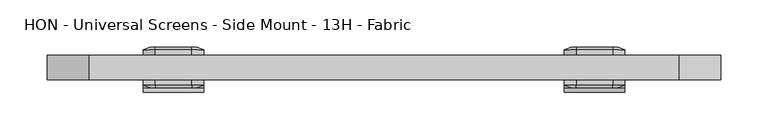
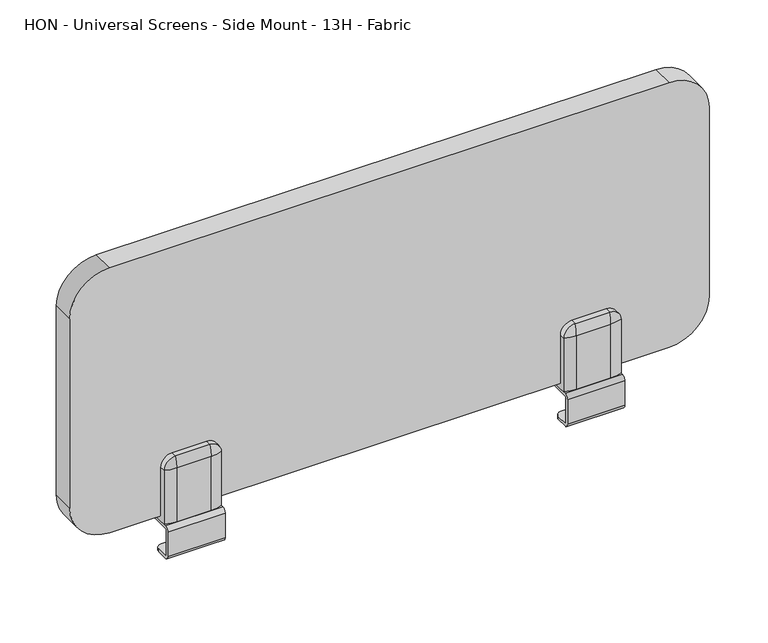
"""IFC4 building model written with IfcOpenShell, lengths in millimetres: furniture geometry."""

from ifc_helpers import new_model, si_unit, point, frame, frame_2d, origin, place, context, project, spatial, polyline, circle_curve, ellipse_curve, trimmed, segment, composite_curve, outline, extrude, source, transform, mapped, element, save
from ifc_brep_helpers import plane_surface, cylinder_surface, revolved_surface, advanced_brep


def hon_universal_screens_side_mount_13h_fabric_62fbe6fb(model_context):
    return source(origin(), model_context, "Body", "SolidModel", [
        advanced_brep(
        [(545.9595047, 10.31875, 818.870911), (558.6595047, 10.31875, 831.570911), (597.0404953, 10.31875, 831.570911), (609.7404953, 10.31875, 818.870911), (609.7404953, 10.31875, 762.0), (545.9595047, 10.31875, 762.0), (545.9595047, 4.1099198, 818.870911), (558.6595047, 4.1099198, 831.570911), (597.0404953, 4.1099198, 831.570911), (609.7404953, 4.1099198, 818.870911), (609.7404953, 35.71875, 818.870911), (597.0404953, 35.71875, 831.570911), (558.6595047, 35.71875, 831.570911), (545.9595047, 35.71875, 818.870911), (545.9595047, 35.71875, 762.0), (609.7404953, 35.71875, 762.0), (545.9595047, 41.9275802, 818.870911), (545.9595047, 41.9275802, 755.6059258), (545.9595047, 10.31875, 755.6059258), (545.9595047, 4.1099198, 755.6059258), (558.6595047, 41.9275802, 831.570911), (597.0404953, 41.9275802, 831.570911), (609.7404953, 41.9275802, 818.870911), (609.7404953, 4.1099198, 755.6059258), (609.7404953, 10.31875, 755.6059258), (609.7404953, 41.9275802, 755.6059258), (558.6595047, 44.3088302, 755.6059258), (597.0404953, 44.3088302, 755.6059258), (597.0404953, 1.7286698, 755.6059258), (558.6595047, 1.7286698, 755.6059258), (558.6595047, 44.3088302, 818.870911), (597.0404953, 44.3088302, 818.870911), (597.0404953, 1.7286698, 818.870911), (558.6595047, 1.7286698, 818.870911)],
        [
            (0, 1, circle_curve(frame((558.6595047, 10.31875, 818.870911), z_axis=(0.0, 1.0, 0.0), x_axis=(-1.0, 0.0, 0.0)), 12.7)),
            (1, 2),
            (2, 3, circle_curve(frame((597.0404953, 10.31875, 818.870911), z_axis=(0.0, 1.0, 0.0), x_axis=(-1.0, 0.0, 0.0)), 12.7)),
            (3, 4),
            (4, 5),
            (5, 0),
            (0, 6),
            (6, 7, circle_curve(frame((558.6595047, 4.1099198, 818.870911), z_axis=(0.0, 1.0, 0.0), x_axis=(-1.0, 0.0, 0.0)), 12.7)),
            (7, 1),
            (7, 8),
            (8, 2),
            (8, 9, circle_curve(frame((597.0404953, 4.1099198, 818.870911), z_axis=(0.0, 1.0, 0.0), x_axis=(-1.0, 0.0, 0.0)), 12.7)),
            (9, 3),
            (10, 11, circle_curve(frame((597.0404953, 35.71875, 818.870911), z_axis=(0.0, -1.0, 0.0), x_axis=(-1.0, 0.0, 0.0)), 12.7)),
            (11, 12),
            (12, 13, circle_curve(frame((558.6595047, 35.71875, 818.870911), z_axis=(0.0, -1.0, 0.0), x_axis=(-1.0, 0.0, 0.0)), 12.7)),
            (13, 14),
            (14, 15),
            (15, 10),
            (13, 16),
            (16, 17),
            (17, 18),
            (18, 19),
            (19, 6),
            (5, 14),
            (12, 20),
            (20, 16, circle_curve(frame((558.6595047, 41.9275802, 818.870911), z_axis=(0.0, -1.0, 0.0), x_axis=(-1.0, 0.0, 0.0)), 12.7)),
            (11, 21),
            (21, 20),
            (10, 22),
            (22, 21, circle_curve(frame((597.0404953, 41.9275802, 818.870911), z_axis=(0.0, -1.0, 0.0), x_axis=(-1.0, 0.0, 0.0)), 12.7)),
            (15, 4),
            (9, 23),
            (23, 24),
            (24, 25),
            (25, 22),
            (26, 27),
            (27, 25, circle_curve(frame((597.0404953, 9.2515386, 755.6059258), z_axis=(0.0, 0.0, -1.0), x_axis=(0.0, -1.0, 0.0)), 35.0572917)),
            (23, 28, circle_curve(frame((597.0404953, 36.7859614, 755.6059258), z_axis=(0.0, 0.0, -1.0), x_axis=(0.0, -1.0, 0.0)), 35.0572917)),
            (28, 29),
            (29, 19, circle_curve(frame((558.6595047, 36.7859614, 755.6059258), z_axis=(0.0, 0.0, -1.0), x_axis=(0.0, -1.0, 0.0)), 35.0572917)),
            (17, 26, circle_curve(frame((558.6595047, 9.2515386, 755.6059258), z_axis=(0.0, 0.0, -1.0), x_axis=(0.0, -1.0, 0.0)), 35.0572917)),
            (26, 30),
            (30, 31),
            (31, 27),
            (9, 32, circle_curve(frame((597.0404953, 36.7859614, 818.870911), z_axis=(0.0, 0.0, -1.0), x_axis=(0.0, -1.0, 0.0)), 35.0572917)),
            (32, 28),
            (8, 32, circle_curve(frame((597.0404953, 36.7859614, 818.870911), z_axis=(1.0, 0.0, 0.0), x_axis=(0.0, -1.0, 0.0)), 35.0572917)),
            (7, 33, circle_curve(frame((558.6595047, 36.7859614, 818.870911), z_axis=(1.0, 0.0, 0.0), x_axis=(0.0, -1.0, 0.0)), 35.0572917)),
            (33, 32),
            (6, 33, circle_curve(frame((558.6595047, 36.7859614, 818.870911), z_axis=(0.0, 0.0, 1.0), x_axis=(0.0, -1.0, 0.0)), 35.0572917)),
            (29, 33),
            (16, 30, circle_curve(frame((558.6595047, 9.2515386, 818.870911), z_axis=(0.0, 0.0, -1.0), x_axis=(0.0, -1.0, 0.0)), 35.0572917)),
            (20, 30, circle_curve(frame((558.6595047, 9.2515386, 818.870911), z_axis=(-1.0, 0.0, 0.0), x_axis=(0.0, -1.0, 0.0)), 35.0572917)),
            (21, 31, circle_curve(frame((597.0404953, 9.2515386, 818.870911), z_axis=(-1.0, 0.0, 0.0), x_axis=(0.0, -1.0, 0.0)), 35.0572917)),
            (22, 31, circle_curve(frame((597.0404953, 9.2515386, 818.870911), z_axis=(0.0, 0.0, 1.0), x_axis=(0.0, -1.0, 0.0)), 35.0572917)),
        ],
        [
            plane_surface(frame((609.7404953, 10.31875, 755.6059258), z_axis=(0.0, 1.0, 0.0), x_axis=(-1.0, 0.0, 0.0))),
            cylinder_surface(frame((558.6595047, 10.31875, 818.870911), z_axis=(0.0, -1.0, 0.0), x_axis=(-1.0, 0.0, 0.0)), 12.7),
            plane_surface(frame((597.0404953, 4.1099198, 831.570911), z_axis=(0.0, 0.0, 1.0), x_axis=(0.0, 1.0, 0.0))),
            cylinder_surface(frame((597.0404953, 10.31875, 818.870911), z_axis=(0.0, -1.0, 0.0), x_axis=(-1.0, 0.0, 0.0)), 12.7),
            plane_surface(frame((545.9595047, 35.71875, 755.6059258), z_axis=(0.0, -1.0, 0.0), x_axis=(0.0, 0.0, -1.0))),
            plane_surface(frame((545.9595047, 41.9275802, 755.6059258), z_axis=(-1.0, 0.0, 0.0), x_axis=(0.0, -1.0, 0.0))),
            cylinder_surface(frame((558.6595047, 35.71875, 818.870911), z_axis=(0.0, 1.0, 0.0), x_axis=(-1.0, 0.0, 0.0)), 12.7),
            plane_surface(frame((558.6595047, 41.9275802, 831.570911), z_axis=(0.0, 0.0, 1.0), x_axis=(0.0, -1.0, 0.0))),
            cylinder_surface(frame((597.0404953, 35.71875, 818.870911), z_axis=(0.0, 1.0, 0.0), x_axis=(-1.0, 0.0, 0.0)), 12.7),
            plane_surface(frame((609.7404953, 41.9275802, 818.870911), z_axis=(1.0, 0.0, 0.0), x_axis=(0.0, -1.0, 0.0))),
            plane_surface(frame((609.7404953, 41.9275802, 755.6059258), z_axis=(0.0, 0.0, -1.0), x_axis=(0.0, -1.0, 0.0))),
            plane_surface(frame((597.0404953, 44.3088302, 755.6059258), z_axis=(0.0, 1.0, 0.0), x_axis=(0.0, 0.0, -1.0))),
            cylinder_surface(frame((597.0404953, 36.7859614, 755.6059258), z_axis=(0.0, 0.0, -1.0), x_axis=(0.0, -1.0, 0.0)), 35.0572917),
            revolved_surface(trimmed(ellipse_curve(frame((597.0404953, 36.7859614, 818.870911), z_axis=(0.0, 0.0, -1.0), x_axis=(0.0, -1.0, 0.0)), 35.0572917, 35.0572917), [point((609.7404953, 4.1099198, 818.870911))], [point((597.0404953, 1.7286698, 818.870911))], True, "CARTESIAN"), (597.0404953, 4.1099198, 818.870911), (0.0, -1.0, 0.0)),
            cylinder_surface(frame((597.0404953, 36.7859614, 818.870911), z_axis=(1.0, 0.0, 0.0), x_axis=(0.0, -1.0, 0.0)), 35.0572917),
            revolved_surface(trimmed(ellipse_curve(frame((558.6595047, 36.7859614, 818.870911), z_axis=(1.0, 0.0, 0.0), x_axis=(0.0, -1.0, 0.0)), 35.0572917, 35.0572917), [point((558.6595047, 4.1099198, 831.570911))], [point((558.6595047, 1.7286698, 818.870911))], True, "CARTESIAN"), (558.6595047, 4.1099198, 818.870911), (0.0, -1.0, 0.0)),
            cylinder_surface(frame((558.6595047, 36.7859614, 818.870911), z_axis=(0.0, 0.0, 1.0), x_axis=(0.0, -1.0, 0.0)), 35.0572917),
            cylinder_surface(frame((558.6595047, 9.2515386, 755.6059258), z_axis=(0.0, 0.0, -1.0), x_axis=(0.0, -1.0, 0.0)), 35.0572917),
            revolved_surface(trimmed(ellipse_curve(frame((558.6595047, 9.2515386, 818.870911), z_axis=(0.0, 0.0, -1.0), x_axis=(0.0, -1.0, 0.0)), 35.0572917, 35.0572917), [point((545.9595047, 41.9275802, 818.870911))], [point((558.6595047, 44.3088302, 818.870911))], True, "CARTESIAN"), (558.6595047, 41.9275802, 818.870911), (0.0, 1.0, 0.0)),
            cylinder_surface(frame((558.6595047, 9.2515386, 818.870911), z_axis=(-1.0, 0.0, 0.0), x_axis=(0.0, -1.0, 0.0)), 35.0572917),
            revolved_surface(trimmed(ellipse_curve(frame((597.0404953, 9.2515386, 818.870911), z_axis=(-1.0, 0.0, 0.0), x_axis=(0.0, -1.0, 0.0)), 35.0572917, 35.0572917), [point((597.0404953, 41.9275802, 831.570911))], [point((597.0404953, 44.3088302, 818.870911))], True, "CARTESIAN"), (597.0404953, 41.9275802, 818.870911), (0.0, 1.0, 0.0)),
            cylinder_surface(frame((597.0404953, 9.2515386, 818.870911), z_axis=(0.0, 0.0, 1.0), x_axis=(0.0, -1.0, 0.0)), 35.0572917),
            plane_surface(frame((597.0404953, 1.7286698, 818.870911), z_axis=(0.0, -1.0, 0.0), x_axis=(-1.0, 0.0, 0.0))),
            plane_surface(frame((545.9595047, 10.31875, 762.0), z_axis=(0.0, 0.0, 1.0), x_axis=(1.0, 0.0, 0.0))),
        ],
        [
            (0, [[1, 2, 3, 4, 5, 6]]),
            (1, [[-1, 7, 8, 9]]),
            (2, [[-2, -9, 10, 11]]),
            (3, [[-3, -11, 12, 13]]),
            (4, [[14, 15, 16, 17, 18, 19]]),
            (5, [[20, 21, 22, 23, 24, -7, -6, 25, -17]]),
            (6, [[-16, 26, 27, -20]]),
            (7, [[-15, 28, 29, -26]]),
            (8, [[-14, 30, 31, -28]]),
            (9, [[-30, -19, 32, -4, -13, 33, 34, 35, 36]]),
            (10, [[37, 38, -35, -34, 39, 40, 41, -23, -22, 42]]),
            (11, [[-37, 43, 44, 45]]),
            (12, [[-39, -33, 46, 47]]),
            (13, [[-46, -12, 48]]),
            (14, [[-48, -10, 49, 50]]),
            (15, [[-49, -8, 51]]),
            (16, [[-51, -24, -41, 52]]),
            (17, [[-42, -21, 53, -43]]),
            (18, [[-53, -27, 54]]),
            (19, [[-54, -29, 55, -44]]),
            (20, [[-55, -31, 56]]),
            (21, [[-56, -36, -38, -45]]),
            (22, [[-40, -47, -50, -52]]),
            (23, [[-25, -5, -32, -18]]),
        ],
    ),
        advanced_brep(
        [(545.9595047, 0.0, 752.3801052), (545.9595047, 0.0, 720.4442862), (545.9595047, 14.3128982, 720.4442862), (545.9595047, 14.3128982, 717.2185384), (545.9595047, 1.5367036, 717.2185384), (545.9595047, -3.2257964, 721.9810384), (545.9595047, -3.2257964, 750.8434258), (545.9595047, 1.5367036, 755.6059258), (545.9595047, 41.9275802, 755.6059258), (545.9595047, 41.9275802, 752.3801052), (609.7404953, 1.5367036, 755.6059258), (609.7404953, -3.2257964, 750.8434258), (609.7404953, -3.2257964, 721.9810384), (609.7404953, 1.5367036, 717.2185384), (609.7404953, 14.3128982, 717.2185384), (609.7404953, 14.3128982, 720.4442862), (609.7404953, 0.0, 720.4442862), (609.7404953, 0.0, 752.3801052), (609.7404953, 41.9275802, 752.3801052), (609.7404953, 41.9275802, 755.6059258), (597.0404953, 44.3088302, 755.6059258), (558.6595047, 44.3088302, 755.6059258), (558.6595047, 44.3088302, 752.3801052), (597.0404953, 44.3088302, 752.3801052), (603.3904953, 20.6628982, 720.4442862), (552.3095047, 20.6628982, 720.4442862), (552.3095047, 20.6628982, 717.2185384), (603.3904953, 20.6628982, 717.2185384)],
        [
            (0, 1),
            (1, 2),
            (2, 3),
            (3, 4),
            (4, 5, circle_curve(frame((545.9595047, 1.5367036, 721.9810384), z_axis=(-1.0, 0.0, 0.0), x_axis=(0.0, 1.0, 0.0)), 4.7625)),
            (5, 6),
            (6, 7, circle_curve(frame((545.9595047, 1.5367036, 750.8434258), z_axis=(-1.0, 0.0, 0.0), x_axis=(0.0, 1.0, 0.0)), 4.7625)),
            (7, 8),
            (8, 9),
            (9, 0),
            (10, 11, circle_curve(frame((609.7404953, 1.5367036, 750.8434258), z_axis=(1.0, 0.0, 0.0), x_axis=(0.0, 1.0, 0.0)), 4.7625)),
            (11, 12),
            (12, 13, circle_curve(frame((609.7404953, 1.5367036, 721.9810384), z_axis=(1.0, 0.0, 0.0), x_axis=(0.0, 1.0, 0.0)), 4.7625)),
            (13, 14),
            (14, 15),
            (15, 16),
            (16, 17),
            (17, 18),
            (18, 19),
            (19, 10),
            (7, 10),
            (19, 20, circle_curve(frame((597.0404953, 9.2515386, 755.6059258), z_axis=(0.0, 0.0, 1.0), x_axis=(0.0, -1.0, 0.0)), 35.0572917)),
            (20, 21),
            (21, 8, circle_curve(frame((558.6595047, 9.2515386, 755.6059258), z_axis=(0.0, 0.0, 1.0), x_axis=(0.0, -1.0, 0.0)), 35.0572917)),
            (17, 0),
            (9, 22, circle_curve(frame((558.6595047, 9.2515386, 752.3801052), z_axis=(0.0, 0.0, -1.0), x_axis=(0.0, -1.0, 0.0)), 35.0572917)),
            (22, 23),
            (23, 18, circle_curve(frame((597.0404953, 9.2515386, 752.3801052), z_axis=(0.0, 0.0, -1.0), x_axis=(0.0, -1.0, 0.0)), 35.0572917)),
            (16, 1),
            (15, 24, circle_curve(frame((603.3904953, 14.3128982, 720.4442862), z_axis=(0.0, 0.0, 1.0), x_axis=(0.0, -1.0, 0.0)), 6.35)),
            (24, 25),
            (25, 2, circle_curve(frame((552.3095047, 14.3128982, 720.4442862), z_axis=(0.0, 0.0, 1.0), x_axis=(0.0, -1.0, 0.0)), 6.35)),
            (13, 4),
            (3, 26, circle_curve(frame((552.3095047, 14.3128982, 717.2185384), z_axis=(0.0, 0.0, -1.0), x_axis=(0.0, -1.0, 0.0)), 6.35)),
            (26, 27),
            (27, 14, circle_curve(frame((603.3904953, 14.3128982, 717.2185384), z_axis=(0.0, 0.0, -1.0), x_axis=(0.0, -1.0, 0.0)), 6.35)),
            (12, 5),
            (11, 6),
            (25, 26),
            (24, 27),
            (22, 21),
            (20, 23),
        ],
        [
            plane_surface(frame((545.9595047, 112.8495344, 755.6059258), z_axis=(-1.0, 0.0, 0.0), x_axis=(0.0, 1.0, 0.0))),
            plane_surface(frame((609.7404953, 112.8495344, 755.6059258), z_axis=(1.0, 0.0, 0.0), x_axis=(0.0, -1.0, 0.0))),
            plane_surface(frame((545.9595047, 1.5367036, 755.6059258), z_axis=(0.0, 0.0, 1.0), x_axis=(1.0, 0.0, 0.0))),
            plane_surface(frame((545.9595047, 46.1750292, 752.3801052), z_axis=(0.0, 0.0, -1.0), x_axis=(1.0, 0.0, 0.0))),
            plane_surface(frame((545.9595047, 0.0, 752.3801052), z_axis=(0.0, 1.0, 0.0), x_axis=(1.0, 0.0, 0.0))),
            plane_surface(frame((545.9595047, 0.0, 720.4442862), z_axis=(0.0, 0.0, 1.0), x_axis=(1.0, 0.0, 0.0))),
            plane_surface(frame((545.9595047, 28.6257965, 717.2185384), z_axis=(0.0, 0.0, -1.0), x_axis=(1.0, 0.0, 0.0))),
            cylinder_surface(frame((609.7404953, 1.5367036, 721.9810384), z_axis=(-1.0, 0.0, 0.0), x_axis=(0.0, 1.0, 0.0)), 4.7625),
            plane_surface(frame((545.9595047, -3.2257964, 721.9810384), z_axis=(0.0, -1.0, 0.0), x_axis=(1.0, 0.0, 0.0))),
            cylinder_surface(frame((609.7404953, 1.5367036, 750.8434258), z_axis=(-1.0, 0.0, 0.0), x_axis=(0.0, 1.0, 0.0)), 4.7625),
            cylinder_surface(frame((552.3095047, 14.3128982, 720.4442862), z_axis=(0.0, 0.0, 1.0), x_axis=(0.0, -1.0, 0.0)), 6.35),
            plane_surface(frame((603.3904953, 20.6628982, 717.2185384), z_axis=(0.0, 1.0, 0.0), x_axis=(0.0, 0.0, 1.0))),
            cylinder_surface(frame((603.3904953, 14.3128982, 720.4442862), z_axis=(0.0, 0.0, 1.0), x_axis=(0.0, -1.0, 0.0)), 6.35),
            plane_surface(frame((597.0404953, 44.3088302, 752.3801052), z_axis=(0.0, 1.0, 0.0), x_axis=(0.0, 0.0, 1.0))),
            cylinder_surface(frame((558.6595047, 9.2515386, 755.6059258), z_axis=(0.0, 0.0, 1.0), x_axis=(0.0, -1.0, 0.0)), 35.0572917),
            cylinder_surface(frame((597.0404953, 9.2515386, 755.6059258), z_axis=(0.0, 0.0, 1.0), x_axis=(0.0, -1.0, 0.0)), 35.0572917),
        ],
        [
            (0, [[1, 2, 3, 4, 5, 6, 7, 8, 9, 10]]),
            (1, [[11, 12, 13, 14, 15, 16, 17, 18, 19, 20]]),
            (2, [[21, -20, 22, 23, 24, -8]]),
            (3, [[25, -10, 26, 27, 28, -18]]),
            (4, [[-1, -25, -17, 29]]),
            (5, [[-29, -16, 30, 31, 32, -2]]),
            (6, [[33, -4, 34, 35, 36, -14]]),
            (7, [[-5, -33, -13, 37]]),
            (8, [[-6, -37, -12, 38]]),
            (9, [[-7, -38, -11, -21]]),
            (10, [[39, -34, -3, -32]]),
            (11, [[-39, -31, 40, -35]]),
            (12, [[-40, -30, -15, -36]]),
            (13, [[41, -23, 42, -27]]),
            (14, [[-41, -26, -9, -24]]),
            (15, [[-42, -22, -19, -28]]),
        ],
    ),
        advanced_brep(
        [(165.2404953, 10.31875, 818.870911), (165.2404953, 10.31875, 762.0), (101.4595047, 10.31875, 762.0), (101.4595047, 10.31875, 818.870911), (114.1595047, 10.31875, 831.570911), (152.5404953, 10.31875, 831.570911), (152.5404953, 4.1099198, 831.570911), (165.2404953, 4.1099198, 818.870911), (114.1595047, 4.1099198, 831.570911), (101.4595047, 4.1099198, 818.870911), (101.4595047, 35.71875, 818.870911), (101.4595047, 35.71875, 762.0), (165.2404953, 35.71875, 762.0), (165.2404953, 35.71875, 818.870911), (152.5404953, 35.71875, 831.570911), (114.1595047, 35.71875, 831.570911), (165.2404953, 4.1099198, 755.6059258), (165.2404953, 10.31875, 755.6059258), (165.2404953, 41.9275802, 755.6059258), (165.2404953, 41.9275802, 818.870911), (152.5404953, 41.9275802, 831.570911), (114.1595047, 41.9275802, 831.570911), (101.4595047, 41.9275802, 818.870911), (101.4595047, 41.9275802, 755.6059258), (101.4595047, 10.31875, 755.6059258), (101.4595047, 4.1099198, 755.6059258), (152.5404953, 44.3088302, 755.6059258), (152.5404953, 1.7286698, 755.6059258), (114.1595047, 1.7286698, 755.6059258), (114.1595047, 44.3088302, 755.6059258), (114.1595047, 44.3088302, 818.870911), (152.5404953, 44.3088302, 818.870911), (114.1595047, 1.7286698, 818.870911), (152.5404953, 1.7286698, 818.870911)],
        [
            (0, 1),
            (1, 2),
            (2, 3),
            (3, 4, circle_curve(frame((114.1595047, 10.31875, 818.870911), z_axis=(0.0, 1.0, 0.0), x_axis=(1.0, 0.0, 0.0)), 12.7)),
            (4, 5),
            (5, 0, circle_curve(frame((152.5404953, 10.31875, 818.870911), z_axis=(0.0, 1.0, 0.0), x_axis=(1.0, 0.0, 0.0)), 12.7)),
            (5, 6),
            (6, 7, circle_curve(frame((152.5404953, 4.1099198, 818.870911), z_axis=(0.0, 1.0, 0.0), x_axis=(1.0, 0.0, 0.0)), 12.7)),
            (7, 0),
            (4, 8),
            (8, 6),
            (3, 9),
            (9, 8, circle_curve(frame((114.1595047, 4.1099198, 818.870911), z_axis=(0.0, 1.0, 0.0), x_axis=(1.0, 0.0, 0.0)), 12.7)),
            (10, 11),
            (11, 12),
            (12, 13),
            (13, 14, circle_curve(frame((152.5404953, 35.71875, 818.870911), z_axis=(0.0, -1.0, 0.0), x_axis=(1.0, 0.0, 0.0)), 12.7)),
            (14, 15),
            (15, 10, circle_curve(frame((114.1595047, 35.71875, 818.870911), z_axis=(0.0, -1.0, 0.0), x_axis=(1.0, 0.0, 0.0)), 12.7)),
            (12, 1),
            (7, 16),
            (16, 17),
            (17, 18),
            (18, 19),
            (19, 13),
            (19, 20, circle_curve(frame((152.5404953, 41.9275802, 818.870911), z_axis=(0.0, -1.0, 0.0), x_axis=(1.0, 0.0, 0.0)), 12.7)),
            (20, 14),
            (20, 21),
            (21, 15),
            (21, 22, circle_curve(frame((114.1595047, 41.9275802, 818.870911), z_axis=(0.0, -1.0, 0.0), x_axis=(1.0, 0.0, 0.0)), 12.7)),
            (22, 10),
            (22, 23),
            (23, 24),
            (24, 25),
            (25, 9),
            (2, 11),
            (26, 18, circle_curve(frame((152.5404953, 9.2515386, 755.6059258), z_axis=(0.0, 0.0, -1.0), x_axis=(0.0, -1.0, 0.0)), 35.0572917)),
            (16, 27, circle_curve(frame((152.5404953, 36.7859614, 755.6059258), z_axis=(0.0, 0.0, -1.0), x_axis=(0.0, -1.0, 0.0)), 35.0572917)),
            (27, 28),
            (28, 25, circle_curve(frame((114.1595047, 36.7859614, 755.6059258), z_axis=(0.0, 0.0, -1.0), x_axis=(0.0, -1.0, 0.0)), 35.0572917)),
            (23, 29, circle_curve(frame((114.1595047, 9.2515386, 755.6059258), z_axis=(0.0, 0.0, -1.0), x_axis=(0.0, -1.0, 0.0)), 35.0572917)),
            (29, 26),
            (29, 30),
            (30, 31),
            (31, 26),
            (28, 32),
            (32, 9, circle_curve(frame((114.1595047, 36.7859614, 818.870911), z_axis=(0.0, 0.0, -1.0), x_axis=(0.0, -1.0, 0.0)), 35.0572917)),
            (32, 8, circle_curve(frame((114.1595047, 36.7859614, 818.870911), z_axis=(-1.0, 0.0, 0.0), x_axis=(0.0, -1.0, 0.0)), 35.0572917)),
            (32, 33),
            (33, 6, circle_curve(frame((152.5404953, 36.7859614, 818.870911), z_axis=(-1.0, 0.0, 0.0), x_axis=(0.0, -1.0, 0.0)), 35.0572917)),
            (33, 7, circle_curve(frame((152.5404953, 36.7859614, 818.870911), z_axis=(0.0, 0.0, 1.0), x_axis=(0.0, -1.0, 0.0)), 35.0572917)),
            (33, 27),
            (31, 19, circle_curve(frame((152.5404953, 9.2515386, 818.870911), z_axis=(0.0, 0.0, -1.0), x_axis=(0.0, -1.0, 0.0)), 35.0572917)),
            (31, 20, circle_curve(frame((152.5404953, 9.2515386, 818.870911), z_axis=(1.0, 0.0, 0.0), x_axis=(0.0, -1.0, 0.0)), 35.0572917)),
            (30, 21, circle_curve(frame((114.1595047, 9.2515386, 818.870911), z_axis=(1.0, 0.0, 0.0), x_axis=(0.0, -1.0, 0.0)), 35.0572917)),
            (30, 22, circle_curve(frame((114.1595047, 9.2515386, 818.870911), z_axis=(0.0, 0.0, 1.0), x_axis=(0.0, -1.0, 0.0)), 35.0572917)),
        ],
        [
            plane_surface(frame((101.4595047, 10.31875, 755.6059258), z_axis=(0.0, 1.0, 0.0), x_axis=(1.0, 0.0, 0.0))),
            cylinder_surface(frame((152.5404953, 10.31875, 818.870911), z_axis=(0.0, -1.0, 0.0), x_axis=(1.0, 0.0, 0.0)), 12.7),
            plane_surface(frame((114.1595047, 4.1099198, 831.570911), z_axis=(0.0, 0.0, 1.0), x_axis=(0.0, 1.0, 0.0))),
            cylinder_surface(frame((114.1595047, 10.31875, 818.870911), z_axis=(0.0, -1.0, 0.0), x_axis=(1.0, 0.0, 0.0)), 12.7),
            plane_surface(frame((165.2404953, 35.71875, 755.6059258), z_axis=(0.0, -1.0, 0.0), x_axis=(0.0, 0.0, -1.0))),
            plane_surface(frame((165.2404953, 41.9275802, 755.6059258), z_axis=(1.0, 0.0, 0.0), x_axis=(0.0, -1.0, 0.0))),
            cylinder_surface(frame((152.5404953, 35.71875, 818.870911), z_axis=(0.0, 1.0, 0.0), x_axis=(1.0, 0.0, 0.0)), 12.7),
            plane_surface(frame((152.5404953, 41.9275802, 831.570911), z_axis=(0.0, 0.0, 1.0), x_axis=(0.0, -1.0, 0.0))),
            cylinder_surface(frame((114.1595047, 35.71875, 818.870911), z_axis=(0.0, 1.0, 0.0), x_axis=(1.0, 0.0, 0.0)), 12.7),
            plane_surface(frame((101.4595047, 41.9275802, 818.870911), z_axis=(-1.0, 0.0, 0.0), x_axis=(0.0, -1.0, 0.0))),
            plane_surface(frame((101.4595047, 41.9275802, 755.6059258), z_axis=(0.0, 0.0, -1.0), x_axis=(0.0, -1.0, 0.0))),
            plane_surface(frame((114.1595047, 44.3088302, 755.6059258), z_axis=(0.0, 1.0, 0.0), x_axis=(0.0, 0.0, -1.0))),
            cylinder_surface(frame((114.1595047, 36.7859614, 755.6059258), z_axis=(0.0, 0.0, -1.0), x_axis=(0.0, -1.0, 0.0)), 35.0572917),
            revolved_surface(trimmed(ellipse_curve(frame((114.1595047, 36.7859614, 818.870911), z_axis=(0.0, 0.0, 1.0), x_axis=(0.0, -1.0, 0.0)), 35.0572917, 35.0572917), [point((101.4595047, 4.1099198, 818.870911))], [point((114.1595047, 1.7286698, 818.870911))], True, "CARTESIAN"), (114.1595047, 4.1099198, 818.870911), (0.0, -1.0, 0.0)),
            cylinder_surface(frame((114.1595047, 36.7859614, 818.870911), z_axis=(-1.0, 0.0, 0.0), x_axis=(0.0, -1.0, 0.0)), 35.0572917),
            revolved_surface(trimmed(ellipse_curve(frame((152.5404953, 36.7859614, 818.870911), z_axis=(1.0, 0.0, 0.0), x_axis=(0.0, -1.0, 0.0)), 35.0572917, 35.0572917), [point((152.5404953, 4.1099198, 831.570911))], [point((152.5404953, 1.7286698, 818.870911))], True, "CARTESIAN"), (152.5404953, 4.1099198, 818.870911), (0.0, -1.0, 0.0)),
            cylinder_surface(frame((152.5404953, 36.7859614, 818.870911), z_axis=(0.0, 0.0, 1.0), x_axis=(0.0, -1.0, 0.0)), 35.0572917),
            cylinder_surface(frame((152.5404953, 9.2515386, 755.6059258), z_axis=(0.0, 0.0, -1.0), x_axis=(0.0, -1.0, 0.0)), 35.0572917),
            revolved_surface(trimmed(ellipse_curve(frame((152.5404953, 9.2515386, 818.870911), z_axis=(0.0, 0.0, 1.0), x_axis=(0.0, -1.0, 0.0)), 35.0572917, 35.0572917), [point((165.2404953, 41.9275802, 818.870911))], [point((152.5404953, 44.3088302, 818.870911))], True, "CARTESIAN"), (152.5404953, 41.9275802, 818.870911), (0.0, 1.0, 0.0)),
            cylinder_surface(frame((152.5404953, 9.2515386, 818.870911), z_axis=(1.0, 0.0, 0.0), x_axis=(0.0, -1.0, 0.0)), 35.0572917),
            revolved_surface(trimmed(ellipse_curve(frame((114.1595047, 9.2515386, 818.870911), z_axis=(-1.0, 0.0, 0.0), x_axis=(0.0, -1.0, 0.0)), 35.0572917, 35.0572917), [point((114.1595047, 41.9275802, 831.570911))], [point((114.1595047, 44.3088302, 818.870911))], True, "CARTESIAN"), (114.1595047, 41.9275802, 818.870911), (0.0, 1.0, 0.0)),
            cylinder_surface(frame((114.1595047, 9.2515386, 818.870911), z_axis=(0.0, 0.0, 1.0), x_axis=(0.0, -1.0, 0.0)), 35.0572917),
            plane_surface(frame((114.1595047, 1.7286698, 818.870911), z_axis=(0.0, -1.0, 0.0), x_axis=(1.0, 0.0, 0.0))),
            plane_surface(frame((165.2404953, 10.31875, 762.0), z_axis=(0.0, 0.0, 1.0), x_axis=(-1.0, 0.0, 0.0))),
        ],
        [
            (0, [[1, 2, 3, 4, 5, 6]]),
            (1, [[7, 8, 9, -6]]),
            (2, [[10, 11, -7, -5]]),
            (3, [[12, 13, -10, -4]]),
            (4, [[14, 15, 16, 17, 18, 19]]),
            (5, [[-16, 20, -1, -9, 21, 22, 23, 24, 25]]),
            (6, [[-25, 26, 27, -17]]),
            (7, [[-27, 28, 29, -18]]),
            (8, [[-29, 30, 31, -19]]),
            (9, [[32, 33, 34, 35, -12, -3, 36, -14, -31]]),
            (10, [[37, -23, -22, 38, 39, 40, -34, -33, 41, 42]]),
            (11, [[43, 44, 45, -42]]),
            (12, [[46, 47, -35, -40]]),
            (13, [[48, -13, -47]]),
            (14, [[49, 50, -11, -48]]),
            (15, [[51, -8, -50]]),
            (16, [[52, -38, -21, -51]]),
            (17, [[-45, 53, -24, -37]]),
            (18, [[54, -26, -53]]),
            (19, [[-44, 55, -28, -54]]),
            (20, [[56, -30, -55]]),
            (21, [[-43, -41, -32, -56]]),
            (22, [[-52, -49, -46, -39]]),
            (23, [[-15, -36, -2, -20]]),
        ],
    ),
        advanced_brep(
        [(165.2404953, 0.0, 752.3801052), (165.2404953, 41.9275802, 752.3801052), (165.2404953, 41.9275802, 755.6059258), (165.2404953, 1.5367036, 755.6059258), (165.2404953, -3.2257964, 750.8434258), (165.2404953, -3.2257964, 721.9810384), (165.2404953, 1.5367036, 717.2185384), (165.2404953, 14.3128982, 717.2185384), (165.2404953, 14.3128982, 720.4442862), (165.2404953, 0.0, 720.4442862), (101.4595047, 1.5367036, 755.6059258), (101.4595047, 41.9275802, 755.6059258), (101.4595047, 41.9275802, 752.3801052), (101.4595047, 0.0, 752.3801052), (101.4595047, 0.0, 720.4442862), (101.4595047, 14.3128982, 720.4442862), (101.4595047, 14.3128982, 717.2185384), (101.4595047, 1.5367036, 717.2185384), (101.4595047, -3.2257964, 721.9810384), (101.4595047, -3.2257964, 750.8434258), (152.5404953, 44.3088302, 755.6059258), (114.1595047, 44.3088302, 755.6059258), (114.1595047, 44.3088302, 752.3801052), (152.5404953, 44.3088302, 752.3801052), (158.8904953, 20.6628982, 720.4442862), (107.8095047, 20.6628982, 720.4442862), (107.8095047, 20.6628982, 717.2185384), (158.8904953, 20.6628982, 717.2185384)],
        [
            (0, 1),
            (1, 2),
            (2, 3),
            (3, 4, circle_curve(frame((165.2404953, 1.5367036, 750.8434258), z_axis=(1.0, 0.0, 0.0), x_axis=(0.0, 1.0, 0.0)), 4.7625)),
            (4, 5),
            (5, 6, circle_curve(frame((165.2404953, 1.5367036, 721.9810384), z_axis=(1.0, 0.0, 0.0), x_axis=(0.0, 1.0, 0.0)), 4.7625)),
            (6, 7),
            (7, 8),
            (8, 9),
            (9, 0),
            (10, 11),
            (11, 12),
            (12, 13),
            (13, 14),
            (14, 15),
            (15, 16),
            (16, 17),
            (17, 18, circle_curve(frame((101.4595047, 1.5367036, 721.9810384), z_axis=(-1.0, 0.0, 0.0), x_axis=(0.0, 1.0, 0.0)), 4.7625)),
            (18, 19),
            (19, 10, circle_curve(frame((101.4595047, 1.5367036, 750.8434258), z_axis=(-1.0, 0.0, 0.0), x_axis=(0.0, 1.0, 0.0)), 4.7625)),
            (2, 20, circle_curve(frame((152.5404953, 9.2515386, 755.6059258), z_axis=(0.0, 0.0, 1.0), x_axis=(0.0, -1.0, 0.0)), 35.0572917)),
            (20, 21),
            (21, 11, circle_curve(frame((114.1595047, 9.2515386, 755.6059258), z_axis=(0.0, 0.0, 1.0), x_axis=(0.0, -1.0, 0.0)), 35.0572917)),
            (10, 3),
            (12, 22, circle_curve(frame((114.1595047, 9.2515386, 752.3801052), z_axis=(0.0, 0.0, -1.0), x_axis=(0.0, -1.0, 0.0)), 35.0572917)),
            (22, 23),
            (23, 1, circle_curve(frame((152.5404953, 9.2515386, 752.3801052), z_axis=(0.0, 0.0, -1.0), x_axis=(0.0, -1.0, 0.0)), 35.0572917)),
            (0, 13),
            (9, 14),
            (8, 24, circle_curve(frame((158.8904953, 14.3128982, 720.4442862), z_axis=(0.0, 0.0, 1.0), x_axis=(0.0, -1.0, 0.0)), 6.35)),
            (24, 25),
            (25, 15, circle_curve(frame((107.8095047, 14.3128982, 720.4442862), z_axis=(0.0, 0.0, 1.0), x_axis=(0.0, -1.0, 0.0)), 6.35)),
            (16, 26, circle_curve(frame((107.8095047, 14.3128982, 717.2185384), z_axis=(0.0, 0.0, -1.0), x_axis=(0.0, -1.0, 0.0)), 6.35)),
            (26, 27),
            (27, 7, circle_curve(frame((158.8904953, 14.3128982, 717.2185384), z_axis=(0.0, 0.0, -1.0), x_axis=(0.0, -1.0, 0.0)), 6.35)),
            (6, 17),
            (5, 18),
            (4, 19),
            (27, 24),
            (26, 25),
            (22, 21),
            (20, 23),
        ],
        [
            plane_surface(frame((165.2404953, 112.8495344, 755.6059258), z_axis=(1.0, 0.0, 0.0), x_axis=(0.0, 1.0, 0.0))),
            plane_surface(frame((101.4595047, 112.8495344, 755.6059258), z_axis=(-1.0, 0.0, 0.0), x_axis=(0.0, -1.0, 0.0))),
            plane_surface(frame((165.2404953, 1.5367036, 755.6059258), z_axis=(0.0, 0.0, 1.0), x_axis=(-1.0, 0.0, 0.0))),
            plane_surface(frame((165.2404953, 46.1750292, 752.3801052), z_axis=(0.0, 0.0, -1.0), x_axis=(-1.0, 0.0, 0.0))),
            plane_surface(frame((165.2404953, 0.0, 752.3801052), z_axis=(0.0, 1.0, 0.0), x_axis=(-1.0, 0.0, 0.0))),
            plane_surface(frame((165.2404953, 0.0, 720.4442862), z_axis=(0.0, 0.0, 1.0), x_axis=(-1.0, 0.0, 0.0))),
            plane_surface(frame((165.2404953, 28.6257965, 717.2185384), z_axis=(0.0, 0.0, -1.0), x_axis=(-1.0, 0.0, 0.0))),
            cylinder_surface(frame((101.4595047, 1.5367036, 721.9810384), z_axis=(1.0, 0.0, 0.0), x_axis=(0.0, 1.0, 0.0)), 4.7625),
            plane_surface(frame((165.2404953, -3.2257964, 721.9810384), z_axis=(0.0, -1.0, 0.0), x_axis=(-1.0, 0.0, 0.0))),
            cylinder_surface(frame((101.4595047, 1.5367036, 750.8434258), z_axis=(1.0, 0.0, 0.0), x_axis=(0.0, 1.0, 0.0)), 4.7625),
            cylinder_surface(frame((158.8904953, 14.3128982, 720.4442862), z_axis=(0.0, 0.0, 1.0), x_axis=(0.0, -1.0, 0.0)), 6.35),
            plane_surface(frame((107.8095047, 20.6628982, 717.2185384), z_axis=(0.0, 1.0, 0.0), x_axis=(0.0, 0.0, 1.0))),
            cylinder_surface(frame((107.8095047, 14.3128982, 720.4442862), z_axis=(0.0, 0.0, 1.0), x_axis=(0.0, -1.0, 0.0)), 6.35),
            plane_surface(frame((114.1595047, 44.3088302, 752.3801052), z_axis=(0.0, 1.0, 0.0), x_axis=(0.0, 0.0, 1.0))),
            cylinder_surface(frame((152.5404953, 9.2515386, 755.6059258), z_axis=(0.0, 0.0, 1.0), x_axis=(0.0, -1.0, 0.0)), 35.0572917),
            cylinder_surface(frame((114.1595047, 9.2515386, 755.6059258), z_axis=(0.0, 0.0, 1.0), x_axis=(0.0, -1.0, 0.0)), 35.0572917),
        ],
        [
            (0, [[1, 2, 3, 4, 5, 6, 7, 8, 9, 10]]),
            (1, [[11, 12, 13, 14, 15, 16, 17, 18, 19, 20]]),
            (2, [[-3, 21, 22, 23, -11, 24]]),
            (3, [[-13, 25, 26, 27, -1, 28]]),
            (4, [[29, -14, -28, -10]]),
            (5, [[-9, 30, 31, 32, -15, -29]]),
            (6, [[-17, 33, 34, 35, -7, 36]]),
            (7, [[37, -18, -36, -6]]),
            (8, [[38, -19, -37, -5]]),
            (9, [[-24, -20, -38, -4]]),
            (10, [[-30, -8, -35, 39]]),
            (11, [[-34, 40, -31, -39]]),
            (12, [[-33, -16, -32, -40]]),
            (13, [[-26, 41, -22, 42]]),
            (14, [[-21, -2, -27, -42]]),
            (15, [[-25, -12, -23, -41]]),
        ],
    ),
        extrude(outline(composite_curve([segment(polyline([(1073.15, 666.75), (1073.15, 44.45)]), True, "CONTINUOUS"), segment(trimmed(circle_curve(frame_2d((1028.7, 44.45)), 44.45), [point((1073.15, 44.45))], [point((1028.7, 0.0))], False, "CARTESIAN"), True, "CONTINUOUS"), segment(polyline([(1028.7, 0.0), (806.45, 0.0)]), True, "CONTINUOUS"), segment(trimmed(circle_curve(frame_2d((806.45, 44.45)), 44.45), [point((806.45, 0.0))], [point((762.0, 44.45))], False, "CARTESIAN"), True, "CONTINUOUS"), segment(polyline([(762.0, 44.45), (762.0, 666.75)]), True, "CONTINUOUS"), segment(trimmed(circle_curve(frame_2d((806.45, 666.75)), 44.45), [point((762.0, 666.75))], [point((806.45, 711.2))], False, "CARTESIAN"), True, "CONTINUOUS"), segment(polyline([(806.45, 711.2), (1028.7, 711.2)]), True, "CONTINUOUS"), segment(trimmed(circle_curve(frame_2d((1028.7, 666.75)), 44.45), [point((1028.7, 711.2))], [point((1073.15, 666.75))], False, "CARTESIAN"), True, "CONTINUOUS")], self_intersect=False)), frame((0.0, 10.31875, 0.0), z_axis=(0.0, 1.0, 0.0), x_axis=(0.0, 0.0, 1.0)), (0.0, 0.0, 1.0), 25.4),
    ])


if __name__ == "__main__":
    model = new_model("IFC4")
    model_context = context("Model", 3, world=origin())
    ifc_project = project(units=[si_unit("LENGTHUNIT", "METRE", prefix="MILLI")], contexts=[model_context])
    site = spatial("IfcSite", under=ifc_project)
    building = spatial("IfcBuilding", under=site)
    placement = place(None, origin())
    hon_universal_screens_side_mount_13h_fabric_shape = hon_universal_screens_side_mount_13h_fabric_62fbe6fb(model_context)
    element("IfcFurniture", 1, ObjectType="HON - Universal Screens - Side Mount - 13H - Fabric : 13\"H x 28\"W", at=placement, inside=building, context=model_context, shape_type="MappedRepresentation", body=[
        mapped(hon_universal_screens_side_mount_13h_fabric_shape, transform((0.0, 0.0, 0.0), x_axis=(1.0, 0.0, 0.0), y_axis=(0.0, 1.0, 0.0), z_axis=(0.0, 0.0, 1.0))),
    ])
    save(model, "model.ifc")
